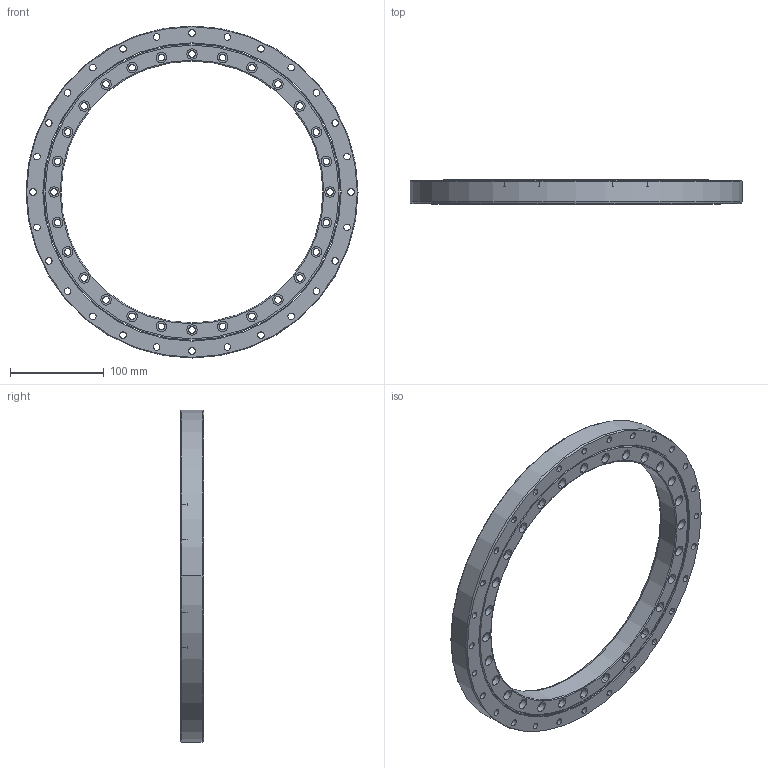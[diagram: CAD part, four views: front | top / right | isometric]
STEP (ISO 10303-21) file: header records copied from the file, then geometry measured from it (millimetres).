
FILE_DESCRIPTION((''),'2;1');
FILE_NAME('XSU080318','2015-07-02T',('Administrator'),(''),'PRO/ENGINEER BY PARAMETRIC TECHNOLOGY CORPORATION, 2010180','PRO/ENGINEER BY PARAMETRIC TECHNOLOGY CORPORATION, 2010180','');
FILE_SCHEMA(('AUTOMOTIVE_DESIGN_CC2 { 1 2 10303 214 -1 1 5 2 }'));
Length unit declared in the file: millimetre
Products named in the file (1): XSU080318
Bounding box: 355 x 25.4 x 355 mm (x, y, z)
Volume: 751825.1 mm3; surface area: 221726.4 mm2
Topology: 2 solids, 2 shells, 330 faces, 772 edges, 508 vertices
Faces by surface type: cylinder 248, plane 66, cone 12, torus 4
Entity records: 10008 total; most frequent: DIRECTION 1944, CARTESIAN_POINT 1610, ORIENTED_EDGE 1544, AXIS2_PLACEMENT_3D 842, EDGE_CURVE 772, CIRCLE 512, VERTEX_POINT 508, EDGE_LOOP 508
